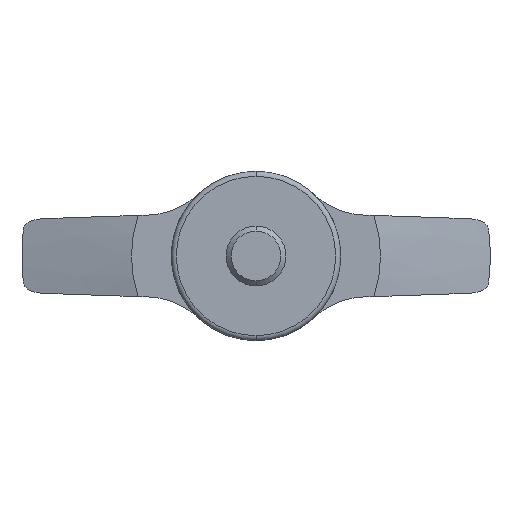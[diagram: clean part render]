
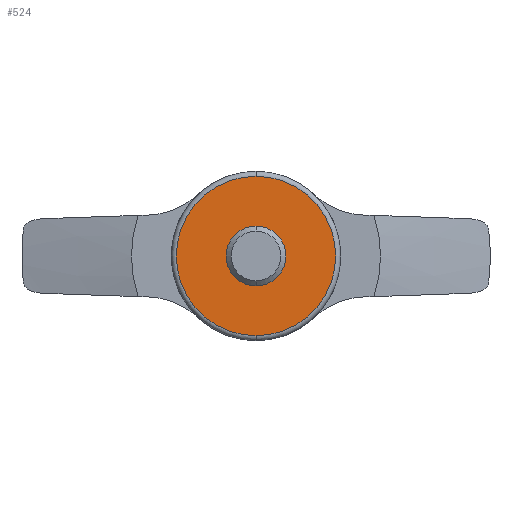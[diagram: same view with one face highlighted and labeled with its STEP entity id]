
A CAD part, front view. The second image highlights one B-rep face of the part: STEP entity #524.
In plain terms, the highlighted planar face has unit normal (0, -1, 0).
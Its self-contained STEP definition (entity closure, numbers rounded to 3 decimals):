
#473 = VERTEX_POINT ( 'NONE', #1033 ) ;
#475 = EDGE_CURVE ( 'NONE', #473, #476, #1032, .T. ) ;
#476 = VERTEX_POINT ( 'NONE', #1101 ) ;
#492 = VERTEX_POINT ( 'NONE', #1013 ) ;
#494 = EDGE_CURVE ( 'NONE', #495, #492, #1113, .T. ) ;
#495 = VERTEX_POINT ( 'NONE', #1108 ) ;
#524 = ADVANCED_FACE ( 'NONE', ( #1176, #1175 ), #1210, .T. ) ;
#525 = ORIENTED_EDGE ( 'NONE', *, *, #494, .T. ) ;
#535 = ORIENTED_EDGE ( 'NONE', *, *, #536, .T. ) ;
#536 = EDGE_CURVE ( 'NONE', #492, #495, #1191, .T. ) ;
#537 = EDGE_LOOP ( 'NONE', ( #538, #561 ) ) ;
#538 = ORIENTED_EDGE ( 'NONE', *, *, #560, .F. ) ;
#551 = EDGE_LOOP ( 'NONE', ( #525, #535 ) ) ;
#560 = EDGE_CURVE ( 'NONE', #476, #473, #1224, .T. ) ;
#561 = ORIENTED_EDGE ( 'NONE', *, *, #475, .F. ) ;
#1013 = CARTESIAN_POINT ( 'NONE',  ( 0., 0., 8. ) ) ;
#1031 = AXIS2_PLACEMENT_3D ( 'NONE', #1104, #1103, #1102 ) ;
#1032 = CIRCLE ( 'NONE', #1031, 3. ) ;
#1033 = CARTESIAN_POINT ( 'NONE',  ( 0., 0., -3. ) ) ;
#1101 = CARTESIAN_POINT ( 'NONE',  ( 0., 0., 3. ) ) ;
#1102 = DIRECTION ( 'NONE',  ( 0., 0., -1. ) ) ;
#1103 = DIRECTION ( 'NONE',  ( 0., -1., 0. ) ) ;
#1104 = CARTESIAN_POINT ( 'NONE',  ( 0., 0., 0. ) ) ;
#1108 = CARTESIAN_POINT ( 'NONE',  ( 0., 0., -8. ) ) ;
#1109 = DIRECTION ( 'NONE',  ( 0., 0., -1. ) ) ;
#1110 = DIRECTION ( 'NONE',  ( 0., -1., 0. ) ) ;
#1111 = CARTESIAN_POINT ( 'NONE',  ( 0., 0., 0. ) ) ;
#1112 = AXIS2_PLACEMENT_3D ( 'NONE', #1111, #1110, #1109 ) ;
#1113 = CIRCLE ( 'NONE', #1112, 8. ) ;
#1175 = FACE_BOUND ( 'NONE', #537, .T. ) ;
#1176 = FACE_OUTER_BOUND ( 'NONE', #551, .T. ) ;
#1187 = DIRECTION ( 'NONE',  ( 0., 0., -1. ) ) ;
#1188 = DIRECTION ( 'NONE',  ( 0., -1., 0. ) ) ;
#1189 = CARTESIAN_POINT ( 'NONE',  ( 0., 0., 0. ) ) ;
#1190 = AXIS2_PLACEMENT_3D ( 'NONE', #1189, #1188, #1187 ) ;
#1191 = CIRCLE ( 'NONE', #1190, 8. ) ;
#1206 = DIRECTION ( 'NONE',  ( 0., -1., 0. ) ) ;
#1207 = CARTESIAN_POINT ( 'NONE',  ( 0., 0., 0. ) ) ;
#1208 = AXIS2_PLACEMENT_3D ( 'NONE', #1207, #1206, #1238 ) ;
#1210 = PLANE ( 'NONE',  #1208 ) ;
#1220 = DIRECTION ( 'NONE',  ( 0., 0., -1. ) ) ;
#1221 = DIRECTION ( 'NONE',  ( 0., -1., 0. ) ) ;
#1222 = CARTESIAN_POINT ( 'NONE',  ( 0., 0., 0. ) ) ;
#1223 = AXIS2_PLACEMENT_3D ( 'NONE', #1222, #1221, #1220 ) ;
#1224 = CIRCLE ( 'NONE', #1223, 3. ) ;
#1238 = DIRECTION ( 'NONE',  ( 0., 0., -1. ) ) ;
